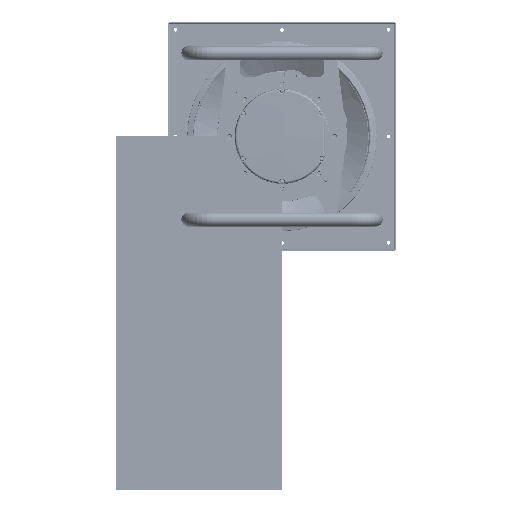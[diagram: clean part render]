
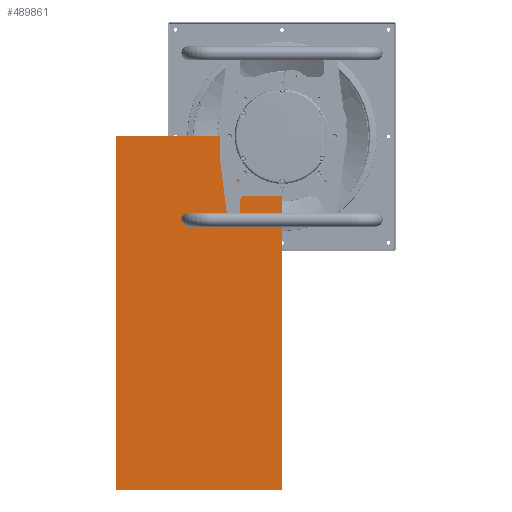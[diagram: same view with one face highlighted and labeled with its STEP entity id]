
A CAD part, left-side view. The second image highlights one B-rep face of the part: STEP entity #489861.
In plain terms, the highlighted planar face has unit normal (-1, 0, 0).
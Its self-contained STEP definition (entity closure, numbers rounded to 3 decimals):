
#454038=DIRECTION('',(0.,0.,-1.));
#454039=VECTOR('',#454038,850.);
#454040=CARTESIAN_POINT('',(0.,0.,0.));
#454041=LINE('',#454040,#454039);
#454042=DIRECTION('',(0.,1.,0.));
#454043=VECTOR('',#454042,400.);
#454044=CARTESIAN_POINT('',(0.,0.,-850.));
#454045=LINE('',#454044,#454043);
#454046=DIRECTION('',(0.,0.,1.));
#454047=VECTOR('',#454046,850.);
#454048=CARTESIAN_POINT('',(0.,400.,-850.));
#454049=LINE('',#454048,#454047);
#454050=DIRECTION('',(0.,-1.,0.));
#454051=VECTOR('',#454050,400.);
#454052=CARTESIAN_POINT('',(0.,400.,0.));
#454053=LINE('',#454052,#454051);
#482644=CARTESIAN_POINT('',(0.,0.,0.));
#482645=CARTESIAN_POINT('',(0.,0.,-850.));
#482646=VERTEX_POINT('',#482644);
#482647=VERTEX_POINT('',#482645);
#482648=CARTESIAN_POINT('',(0.,400.,-850.));
#482649=VERTEX_POINT('',#482648);
#482650=CARTESIAN_POINT('',(0.,400.,0.));
#482651=VERTEX_POINT('',#482650);
#489846=CARTESIAN_POINT('',(0.,0.,0.));
#489847=DIRECTION('',(1.,0.,0.));
#489848=DIRECTION('',(0.,0.,-1.));
#489849=AXIS2_PLACEMENT_3D('',#489846,#489847,#489848);
#489850=PLANE('',#489849);
#489852=ORIENTED_EDGE('',*,*,#489851,.T.);
#489854=ORIENTED_EDGE('',*,*,#489853,.T.);
#489856=ORIENTED_EDGE('',*,*,#489855,.T.);
#489858=ORIENTED_EDGE('',*,*,#489857,.T.);
#489859=EDGE_LOOP('',(#489852,#489854,#489856,#489858));
#489860=FACE_OUTER_BOUND('',#489859,.F.);
#489851=EDGE_CURVE('',#482646,#482647,#454041,.T.);
#489853=EDGE_CURVE('',#482647,#482649,#454045,.T.);
#489855=EDGE_CURVE('',#482649,#482651,#454049,.T.);
#489857=EDGE_CURVE('',#482651,#482646,#454053,.T.);
#489861=ADVANCED_FACE('',(#489860),#489850,.F.);
